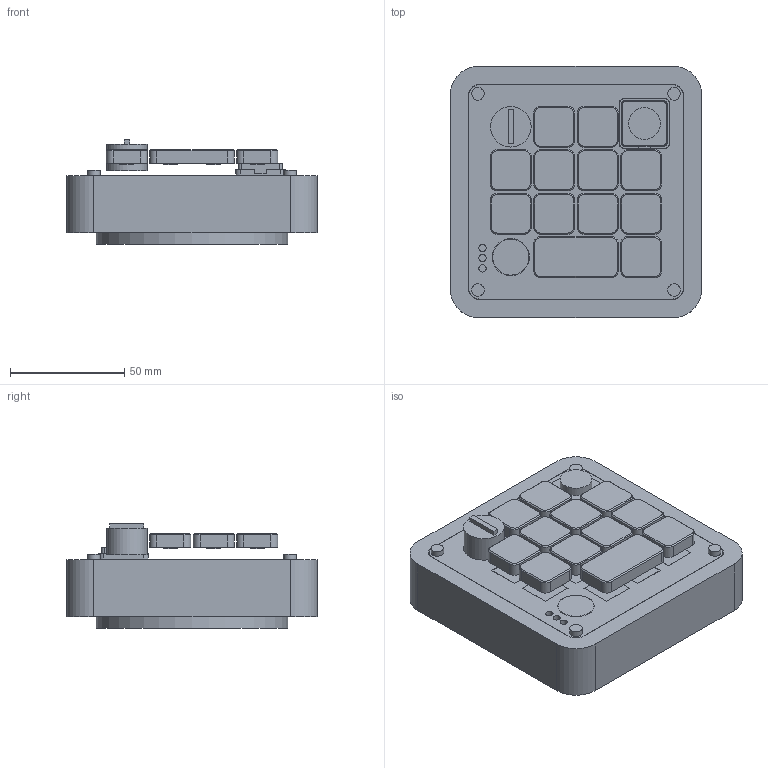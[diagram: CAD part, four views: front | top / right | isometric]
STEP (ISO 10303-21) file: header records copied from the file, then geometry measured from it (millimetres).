
FILE_DESCRIPTION(('Open CASCADE Model'),'2;1');
FILE_NAME('Open CASCADE Shape Model','2026-09-13T11:40:36',('Author'),( 'Open CASCADE'),'Open CASCADE STEP processor 7.9','Open CASCADE 7.9' ,'Unknown');
FILE_SCHEMA(('AUTOMOTIVE_DESIGN { 1 0 10303 214 1 1 1 1 }'));
Length unit declared in the file: millimetre
Products named in the file (50): DIY_Micro_Rev_A; case; switch_plate; round_foot; joystick_cradle; touch_cap; encoder_knob; light_baffle_1; REF_RGBW_LED_1; light_baffle_2; REF_RGBW_LED_2; light_baffle_3; REF_RGBW_LED_3; light_baffle_4; REF_RGBW_LED_4; light_baffle_5; REF_RGBW_LED_5; light_baffle_6; REF_RGBW_LED_6; REF_MX_switch_R1C2; keycap_R1C2; REF_MX_switch_R1C3; keycap_R1C3; REF_MX_switch_R2C1; keycap_R2C1; REF_MX_switch_R2C2; keycap_R2C2; REF_MX_switch_R2C3; keycap_R2C3; REF_MX_switch_R2C4; keycap_R2C4; REF_MX_switch_R3C1; keycap_R3C1; REF_MX_switch_R3C2; keycap_R3C2; REF_MX_switch_R3C3; keycap_R3C3; REF_MX_switch_R3C4; keycap_R3C4; REF_MX_switch_R4C2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
Assembly tree (49 placements, depth 2):
  DIY_Micro_Rev_A
    case
    switch_plate
    round_foot
    joystick_cradle
    touch_cap
    encoder_knob
    light_baffle_1
    REF_RGBW_LED_1
    light_baffle_2
    REF_RGBW_LED_2
    light_baffle_3
    REF_RGBW_LED_3
    light_baffle_4
    REF_RGBW_LED_4
    light_baffle_5
    REF_RGBW_LED_5
    light_baffle_6
    REF_RGBW_LED_6
    REF_MX_switch_R1C2
    keycap_R1C2
    REF_MX_switch_R1C3
    keycap_R1C3
    REF_MX_switch_R2C1
    keycap_R2C1
    REF_MX_switch_R2C2
    keycap_R2C2
    REF_MX_switch_R2C3
    keycap_R2C3
    REF_MX_switch_R2C4
    keycap_R2C4
    REF_MX_switch_R3C1
    keycap_R3C1
    REF_MX_switch_R3C2
    keycap_R3C2
    REF_MX_switch_R3C3
    keycap_R3C3
    REF_MX_switch_R3C4
    keycap_R3C4
    REF_MX_switch_R4C2
    REF_MX_switch_R4C3
    REF_MX_switch_R4C4
    keycap_R4C4
    wide_keycap
    REF_PSP_joystick_envelope
    REF_KB2040_envelope
    REF_screw_-43.0_-43.0
    REF_screw_-43.0_43.0
    REF_screw_43.0_-43.0
    REF_screw_43.0_43.0
Bounding box: 110 x 110 x 45.8 mm (x, y, z)
Volume: 175350.2 mm3; surface area: 129071.9 mm2
Topology: 49 solids, 49 shells, 1183 faces, 2887 edges, 1890 vertices
Faces by surface type: plane 899, cylinder 236, cone 48
Full cylindrical faces by diameter (mm): 3.2 x3, 3.3 x6, 3.4 x6, 3.9 x6, 5.5 x4, 6 x13, 6.3 x2, 7.2 x1, 8 x4, 9 x2, 10.8 x1, 13.8 x1, 14 x1, 15.8 x1, 16.2 x1, 17.8 x1, 18.8 x1, 24.6 x4, 84 x1
Entity records: 73403 total; most frequent: CARTESIAN_POINT 13560, DIRECTION 10962, LINE 7151, VECTOR 7151, ORIENTED_EDGE 5774, PCURVE 5774, DEFINITIONAL_REPRESENTATION 5774, EDGE_CURVE 2887
